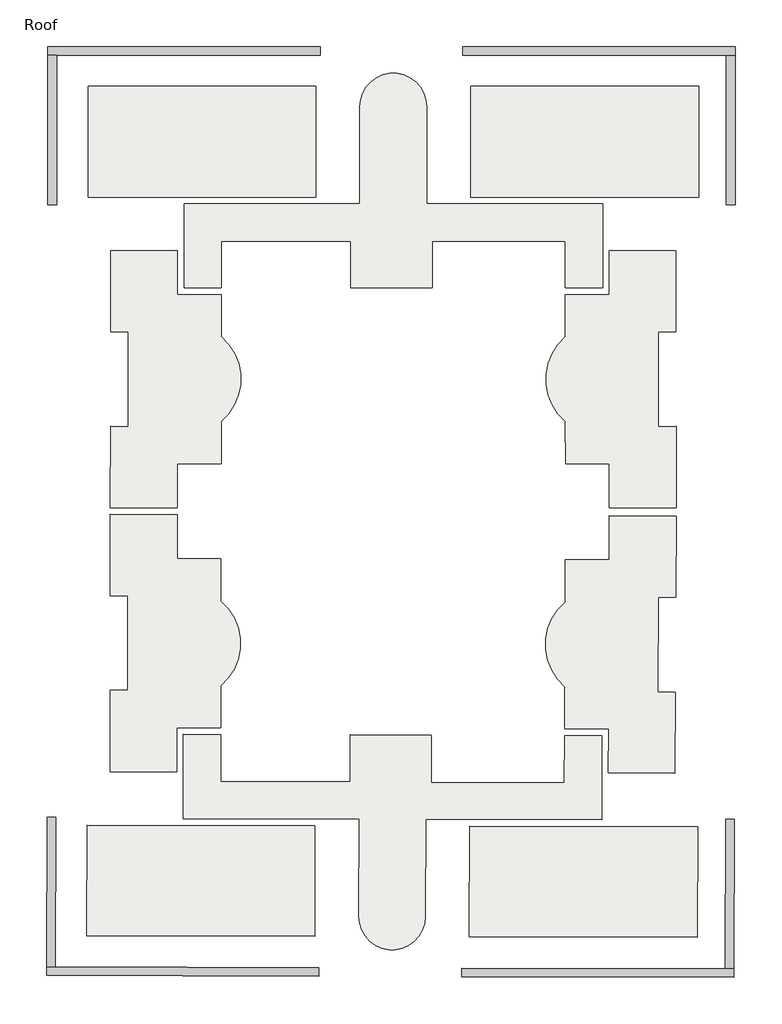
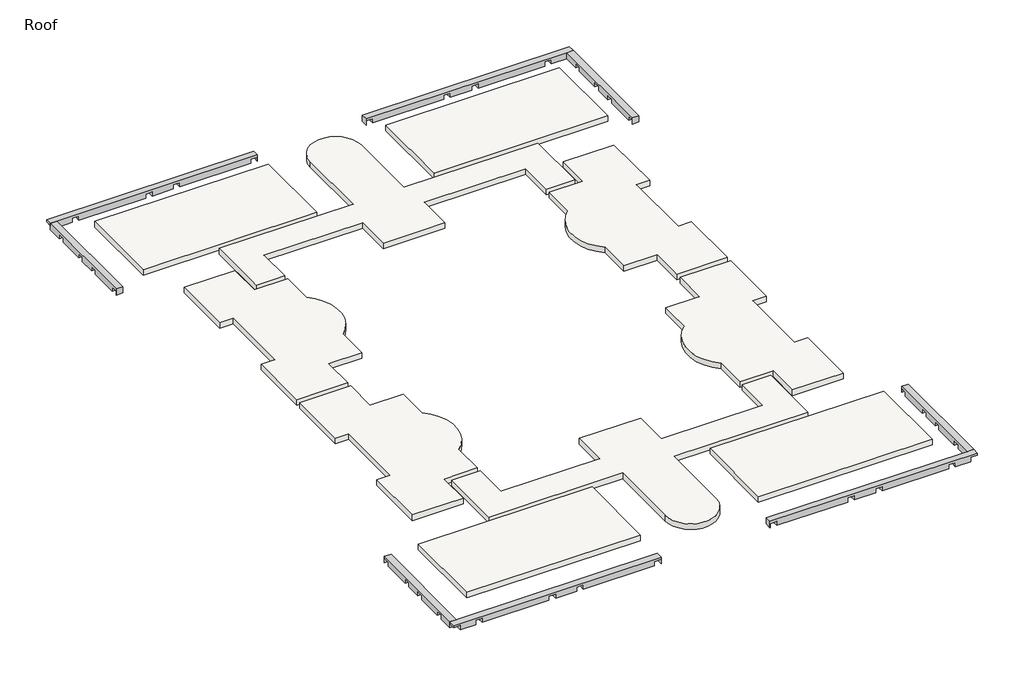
# One storey: 10 roofs, 8 beams.
"""IFC4 building model written with IfcOpenShell, lengths in millimetres."""

from ifc_helpers import new_model, si_unit, point, frame, frame_2d, origin, place, context, project, spatial, polyline, circle_curve, trimmed, segment, composite_curve, outline, extrude, faceted_brep, element, save

model = new_model("IFC4")

# Units and contexts
model_context = context("Model", 3, world=origin())
ifc_project = project(units=[si_unit("LENGTHUNIT", "METRE", prefix="MILLI")], contexts=[model_context])

# Site, building, storey
site = spatial("IfcSite", under=ifc_project)
building = spatial("IfcBuilding", under=site)
storey = spatial("IfcBuildingStorey", under=building, Name="Roof", Elevation=12192.0)

# Beams
placement = place(None, origin())
element("IfcBeam", 1, ObjectType="M_Concrete-Rectangular Beam : 450 x 450", at=placement, inside=storey, context=model_context, shape_type="Brep", body=[
    faceted_brep([(-15338.3416203, 4481.1188386, 12192.0), (-15338.3416203, 4481.1188386, 11742.0), (-15338.3416203, 4031.1188386, 11742.0), (-15338.3416203, 4031.1188386, 12192.0), (-1643.3416203, 4031.1188386, 12192.0), (-1193.3416203, 4031.1188386, 12192.0), (-1193.3416203, 4481.1188386, 12192.0), (-15335.3416203, 4031.1188386, 11742.0), (-15335.3416203, 4031.1188386, 12042.0), (-14885.3416203, 4031.1188386, 12042.0), (-14885.3416203, 4031.1188386, 11742.0), (-10043.3416203, 4031.1188386, 11742.0), (-10043.3416203, 4031.1188386, 12042.0), (-9593.3416203, 4031.1188386, 12042.0), (-9593.3416203, 4031.1188386, 11742.0), (-8143.3416203, 4031.1188386, 11742.0), (-8143.3416203, 4031.1188386, 12042.0), (-7693.3416203, 4031.1188386, 12042.0), (-7693.3416203, 4031.1188386, 11742.0), (-3143.3416203, 4031.1188386, 11742.0), (-3143.3416203, 4031.1188386, 12042.0), (-2693.3416203, 4031.1188386, 12042.0), (-2693.3416203, 4031.1188386, 11742.0), (-1643.3416203, 4031.1188386, 11742.0), (-1643.3416203, 4031.1188386, 12042.0), (-1193.3416203, 4031.1188386, 12042.0), (-2693.3416203, 4481.1188386, 11742.0), (-1643.3416203, 4481.1188386, 11742.0), (-1193.3416203, 4481.1188386, 12042.0), (-1643.3416203, 4481.1188386, 12042.0), (-2693.3416203, 4481.1188386, 12042.0), (-3143.3416203, 4481.1188386, 12042.0), (-3143.3416203, 4481.1188386, 11742.0), (-7693.3416203, 4481.1188386, 11742.0), (-7693.3416203, 4481.1188386, 12042.0), (-8143.3416203, 4481.1188386, 12042.0), (-8143.3416203, 4481.1188386, 11742.0), (-9593.3416203, 4481.1188386, 11742.0), (-9593.3416203, 4481.1188386, 12042.0), (-10043.3416203, 4481.1188386, 12042.0), (-10043.3416203, 4481.1188386, 11742.0), (-14885.3416203, 4481.1188386, 11742.0), (-14885.3416203, 4481.1188386, 12042.0), (-15335.3416203, 4481.1188386, 12042.0), (-15335.3416203, 4481.1188386, 11742.0)], [[[0, 1, 2, 3]], [[0, 3, 4, 5, 6]], [[3, 2, 7, 8, 9, 10, 11, 12, 13, 14, 15, 16, 17, 18, 19, 20, 21, 22, 23, 24, 25, 5, 4]], [[22, 26, 27, 23]], [[1, 0, 6, 28, 29, 27, 26, 30, 31, 32, 33, 34, 35, 36, 37, 38, 39, 40, 41, 42, 43, 44]], [[6, 5, 25, 28]], [[21, 30, 26, 22]], [[31, 20, 19, 32]], [[30, 21, 20, 31]], [[32, 19, 18, 33]], [[17, 34, 33, 18]], [[35, 16, 15, 36]], [[34, 17, 16, 35]], [[36, 15, 14, 37]], [[13, 38, 37, 14]], [[39, 12, 11, 40]], [[38, 13, 12, 39]], [[40, 11, 10, 41]], [[9, 42, 41, 10]], [[42, 9, 8, 43]], [[29, 24, 23, 27]], [[24, 29, 28, 25]], [[43, 8, 7, 44]], [[2, 1, 44, 7]]]),
])
element("IfcBeam", 2, ObjectType="M_Concrete-Rectangular Beam : 450 x 450", at=placement, inside=storey, context=model_context, shape_type="Brep", body=[
    faceted_brep([(-1193.3416203, -3743.8811614, 12192.0), (-1643.3416203, -3743.8811614, 12192.0), (-1643.3416203, -3743.8811614, 11742.0), (-1193.3416203, -3743.8811614, 11742.0), (-1193.3416203, 4031.1188386, 12192.0), (-1643.3416203, 4031.1188386, 12192.0), (-1643.3416203, 4031.1188386, 12042.0), (-1643.3416203, 4031.1188386, 11742.0), (-1643.3416203, 2981.1188386, 11742.0), (-1643.3416203, 2981.1188386, 12042.0), (-1643.3416203, 2531.1188386, 12042.0), (-1643.3416203, 2531.1188386, 11742.0), (-1643.3416203, 681.1188386, 11742.0), (-1643.3416203, 681.1188386, 12042.0), (-1643.3416203, 231.1188386, 12042.0), (-1643.3416203, 231.1188386, 11742.0), (-1643.3416203, -845.3811614, 11742.0), (-1643.3416203, -845.3811614, 12042.0), (-1643.3416203, -1295.3811614, 12042.0), (-1643.3416203, -1295.3811614, 11742.0), (-1643.3416203, -3289.8811614, 11742.0), (-1643.3416203, -3289.8811614, 12042.0), (-1643.3416203, -3739.8811614, 12042.0), (-1643.3416203, -3739.8811614, 11742.0), (-1193.3416203, -3739.8811614, 11742.0), (-1193.3416203, -3739.8811614, 12042.0), (-1193.3416203, -3289.8811614, 12042.0), (-1193.3416203, -3289.8811614, 11742.0), (-1193.3416203, -1295.3811614, 11742.0), (-1193.3416203, -1295.3811614, 12042.0), (-1193.3416203, -845.3811614, 12042.0), (-1193.3416203, -845.3811614, 11742.0), (-1193.3416203, 231.1188386, 11742.0), (-1193.3416203, 231.1188386, 12042.0), (-1193.3416203, 681.1188386, 12042.0), (-1193.3416203, 681.1188386, 11742.0), (-1193.3416203, 2531.1188386, 11742.0), (-1193.3416203, 2531.1188386, 12042.0), (-1193.3416203, 2981.1188386, 12042.0), (-1193.3416203, 2981.1188386, 11742.0), (-1193.3416203, 4031.1188386, 11742.0), (-1193.3416203, 4031.1188386, 12042.0)], [[[0, 1, 2, 3]], [[1, 0, 4, 5]], [[2, 1, 5, 6, 7, 8, 9, 10, 11, 12, 13, 14, 15, 16, 17, 18, 19, 20, 21, 22, 23]], [[3, 2, 23, 24]], [[0, 3, 24, 25, 26, 27, 28, 29, 30, 31, 32, 33, 34, 35, 36, 37, 38, 39, 40, 41, 4]], [[5, 4, 41, 40, 7, 6]], [[10, 37, 36, 11]], [[38, 9, 8, 39]], [[37, 10, 9, 38]], [[7, 40, 39, 8]], [[14, 33, 32, 15]], [[34, 13, 12, 35]], [[33, 14, 13, 34]], [[11, 36, 35, 12]], [[18, 29, 28, 19]], [[30, 17, 16, 31]], [[29, 18, 17, 30]], [[15, 32, 31, 16]], [[26, 21, 20, 27]], [[25, 22, 21, 26]], [[22, 25, 24, 23]], [[19, 28, 27, 20]]]),
])
element("IfcBeam", 3, ObjectType="M_Concrete-Rectangular Beam : 450 x 450", at=placement, inside=storey, context=model_context, shape_type="Brep", body=[
    faceted_brep([(-22763.8416203, 4481.1188386, 11742.0), (-22763.8416203, 4481.1188386, 12192.0), (-22763.8416203, 4031.1188386, 12192.0), (-22763.8416203, 4031.1188386, 11742.0), (-36908.8416203, 4481.1188386, 12192.0), (-36908.8416203, 4031.1188386, 12192.0), (-36458.8416203, 4031.1188386, 12192.0), (-36908.8416203, 4031.1188386, 12042.0), (-36458.8416203, 4031.1188386, 12042.0), (-36458.8416203, 4031.1188386, 11742.0), (-35408.8416203, 4031.1188386, 11742.0), (-35408.8416203, 4031.1188386, 12042.0), (-34958.8416203, 4031.1188386, 12042.0), (-34958.8416203, 4031.1188386, 11742.0), (-30408.8416203, 4031.1188386, 11742.0), (-30408.8416203, 4031.1188386, 12042.0), (-29958.8416203, 4031.1188386, 12042.0), (-29958.8416203, 4031.1188386, 11742.0), (-28508.8416203, 4031.1188386, 11742.0), (-28508.8416203, 4031.1188386, 12042.0), (-28058.8416203, 4031.1188386, 12042.0), (-28058.8416203, 4031.1188386, 11742.0), (-23216.8416203, 4031.1188386, 11742.0), (-23216.8416203, 4031.1188386, 12042.0), (-22766.8416203, 4031.1188386, 12042.0), (-22766.8416203, 4031.1188386, 11742.0), (-35408.8416203, 4481.1188386, 11742.0), (-36458.8416203, 4481.1188386, 11742.0), (-22766.8416203, 4481.1188386, 11742.0), (-22766.8416203, 4481.1188386, 12042.0), (-23216.8416203, 4481.1188386, 12042.0), (-23216.8416203, 4481.1188386, 11742.0), (-28058.8416203, 4481.1188386, 11742.0), (-28058.8416203, 4481.1188386, 12042.0), (-28508.8416203, 4481.1188386, 12042.0), (-28508.8416203, 4481.1188386, 11742.0), (-29958.8416203, 4481.1188386, 11742.0), (-29958.8416203, 4481.1188386, 12042.0), (-30408.8416203, 4481.1188386, 12042.0), (-30408.8416203, 4481.1188386, 11742.0), (-34958.8416203, 4481.1188386, 11742.0), (-34958.8416203, 4481.1188386, 12042.0), (-35408.8416203, 4481.1188386, 12042.0), (-36458.8416203, 4481.1188386, 12042.0), (-36908.8416203, 4481.1188386, 12042.0)], [[[0, 1, 2, 3]], [[2, 1, 4, 5, 6]], [[3, 2, 6, 5, 7, 8, 9, 10, 11, 12, 13, 14, 15, 16, 17, 18, 19, 20, 21, 22, 23, 24, 25]], [[26, 10, 9, 27]], [[1, 0, 28, 29, 30, 31, 32, 33, 34, 35, 36, 37, 38, 39, 40, 41, 42, 26, 27, 43, 44, 4]], [[42, 11, 10, 26]], [[12, 41, 40, 13]], [[11, 42, 41, 12]], [[13, 40, 39, 14]], [[38, 15, 14, 39]], [[16, 37, 36, 17]], [[15, 38, 37, 16]], [[17, 36, 35, 18]], [[34, 19, 18, 35]], [[20, 33, 32, 21]], [[19, 34, 33, 20]], [[21, 32, 31, 22]], [[30, 23, 22, 31]], [[23, 30, 29, 24]], [[8, 43, 27, 9]], [[43, 8, 7, 44]], [[24, 29, 28, 25]], [[0, 3, 25, 28]], [[5, 4, 44, 7]]]),
])
element("IfcBeam", 4, ObjectType="M_Concrete-Rectangular Beam : 450 x 450", at=placement, inside=storey, context=model_context, shape_type="Brep", body=[
    faceted_brep([(-36458.8416203, -3743.8811614, 12192.0), (-36908.8416203, -3743.8811614, 12192.0), (-36908.8416203, -3743.8811614, 11742.0), (-36458.8416203, -3743.8811614, 11742.0), (-36458.8416203, 4031.1188386, 12192.0), (-36908.8416203, 4031.1188386, 12192.0), (-36458.8416203, -3739.8811614, 11742.0), (-36458.8416203, -3739.8811614, 12042.0), (-36458.8416203, -3289.8811614, 12042.0), (-36458.8416203, -3289.8811614, 11742.0), (-36458.8416203, -1295.3811614, 11742.0), (-36458.8416203, -1295.3811614, 12042.0), (-36458.8416203, -845.3811614, 12042.0), (-36458.8416203, -845.3811614, 11742.0), (-36458.8416203, 231.1188386, 11742.0), (-36458.8416203, 231.1188386, 12042.0), (-36458.8416203, 681.1188386, 12042.0), (-36458.8416203, 681.1188386, 11742.0), (-36458.8416203, 2531.1188386, 11742.0), (-36458.8416203, 2531.1188386, 12042.0), (-36458.8416203, 2981.1188386, 12042.0), (-36458.8416203, 2981.1188386, 11742.0), (-36458.8416203, 4031.1188386, 11742.0), (-36458.8416203, 4031.1188386, 12042.0), (-36908.8416203, -3739.8811614, 11742.0), (-36908.8416203, 4031.1188386, 12042.0), (-36908.8416203, 4031.1188386, 11742.0), (-36908.8416203, 2981.1188386, 11742.0), (-36908.8416203, 2981.1188386, 12042.0), (-36908.8416203, 2531.1188386, 12042.0), (-36908.8416203, 2531.1188386, 11742.0), (-36908.8416203, 681.1188386, 11742.0), (-36908.8416203, 681.1188386, 12042.0), (-36908.8416203, 231.1188386, 12042.0), (-36908.8416203, 231.1188386, 11742.0), (-36908.8416203, -845.3811614, 11742.0), (-36908.8416203, -845.3811614, 12042.0), (-36908.8416203, -1295.3811614, 12042.0), (-36908.8416203, -1295.3811614, 11742.0), (-36908.8416203, -3289.8811614, 11742.0), (-36908.8416203, -3289.8811614, 12042.0), (-36908.8416203, -3739.8811614, 12042.0)], [[[0, 1, 2, 3]], [[1, 0, 4, 5]], [[0, 3, 6, 7, 8, 9, 10, 11, 12, 13, 14, 15, 16, 17, 18, 19, 20, 21, 22, 23, 4]], [[3, 2, 24, 6]], [[2, 1, 5, 25, 26, 27, 28, 29, 30, 31, 32, 33, 34, 35, 36, 37, 38, 39, 40, 41, 24]], [[5, 4, 23, 22, 26, 25]], [[29, 19, 18, 30]], [[20, 28, 27, 21]], [[19, 29, 28, 20]], [[26, 22, 21, 27]], [[33, 15, 14, 34]], [[16, 32, 31, 17]], [[15, 33, 32, 16]], [[30, 18, 17, 31]], [[37, 11, 10, 38]], [[12, 36, 35, 13]], [[11, 37, 36, 12]], [[34, 14, 13, 35]], [[8, 40, 39, 9]], [[7, 41, 40, 8]], [[41, 7, 6, 24]], [[38, 10, 9, 39]]]),
])
element("IfcBeam", 5, ObjectType="M_Concrete-Rectangular Beam : 450 x 450", at=placement, inside=storey, context=model_context, shape_type="Brep", body=[
    faceted_brep([(-15408.3142615, -43861.5586759, 11742.0), (-15408.3142615, -43861.5586759, 12192.0), (-15407.0115773, -43411.5605615, 12192.0), (-15407.0115773, -43411.5605615, 11742.0), (-1263.3735305, -43902.5063845, 12192.0), (-1262.0708462, -43452.5082701, 12192.0), (-1712.0689607, -43451.2055858, 12192.0), (-1262.0708462, -43452.5082701, 12042.0), (-1712.0689607, -43451.2055858, 12042.0), (-1712.0689607, -43451.2055858, 11742.0), (-2762.0645611, -43448.1659892, 11742.0), (-2762.0645611, -43448.1659892, 12042.0), (-3212.0626755, -43446.863305, 12042.0), (-3212.0626755, -43446.863305, 11742.0), (-7762.0436106, -43433.6917196, 11742.0), (-7762.0436106, -43433.6917196, 12042.0), (-8212.041725, -43432.3890354, 12042.0), (-8212.041725, -43432.3890354, 11742.0), (-9662.0356494, -43428.1914972, 11742.0), (-9662.0356494, -43428.1914972, 12042.0), (-10112.0337638, -43426.888813, 12042.0), (-10112.0337638, -43426.888813, 11742.0), (-14954.0134754, -43412.8719303, 11742.0), (-14954.0134754, -43412.8719303, 12042.0), (-15404.0115898, -43411.569246, 12042.0), (-15404.0115898, -43411.569246, 11742.0), (-2763.3672453, -43898.1641037, 11742.0), (-1713.3716449, -43901.2037003, 11742.0), (-15405.3142741, -43861.5673605, 11742.0), (-15405.3142741, -43861.5673605, 12042.0), (-14955.3161596, -43862.8700448, 12042.0), (-14955.3161597, -43862.8700448, 11742.0), (-10113.3364481, -43876.8869274, 11742.0), (-10113.3364481, -43876.8869274, 12042.0), (-9663.3383336, -43878.1896117, 12042.0), (-9663.3383337, -43878.1896117, 11742.0), (-8213.3444093, -43882.3871498, 11742.0), (-8213.3444093, -43882.3871498, 12042.0), (-7763.3462948, -43883.6898341, 12042.0), (-7763.3462948, -43883.6898341, 11742.0), (-3213.3653598, -43896.8614194, 11742.0), (-3213.3653598, -43896.8614194, 12042.0), (-2763.3672453, -43898.1641037, 12042.0), (-1713.3716449, -43901.2037003, 12042.0), (-1263.3735305, -43902.5063845, 12042.0)], [[[0, 1, 2, 3]], [[2, 1, 4, 5, 6]], [[3, 2, 6, 5, 7, 8, 9, 10, 11, 12, 13, 14, 15, 16, 17, 18, 19, 20, 21, 22, 23, 24, 25]], [[26, 10, 9, 27]], [[1, 0, 28, 29, 30, 31, 32, 33, 34, 35, 36, 37, 38, 39, 40, 41, 42, 26, 27, 43, 44, 4]], [[42, 11, 10, 26]], [[12, 41, 40, 13]], [[11, 42, 41, 12]], [[13, 40, 39, 14]], [[38, 15, 14, 39]], [[16, 37, 36, 17]], [[15, 38, 37, 16]], [[17, 36, 35, 18]], [[34, 19, 18, 35]], [[20, 33, 32, 21]], [[19, 34, 33, 20]], [[21, 32, 31, 22]], [[30, 23, 22, 31]], [[23, 30, 29, 24]], [[8, 43, 27, 9]], [[43, 8, 7, 44]], [[24, 29, 28, 25]], [[0, 3, 25, 28]], [[5, 4, 44, 7]]]),
])
element("IfcBeam", 6, ObjectType="M_Concrete-Rectangular Beam : 450 x 450", at=placement, inside=storey, context=model_context, shape_type="Brep", body=[
    faceted_brep([(-1689.5614715, -35676.2381638, 12192.0), (-1239.563357, -35677.5408481, 12192.0), (-1239.563357, -35677.5408481, 11742.0), (-1689.5614715, -35676.2381638, 11742.0), (-1712.0689607, -43451.2055858, 12192.0), (-1262.0708462, -43452.5082701, 12192.0), (-1689.5730509, -35680.2381471, 11742.0), (-1689.5730509, -35680.2381471, 12042.0), (-1690.8757352, -36130.2362615, 12042.0), (-1690.8757352, -36130.2362615, 11742.0), (-1696.6495213, -38124.7279044, 11742.0), (-1696.6495213, -38124.7279044, 12042.0), (-1697.9522056, -38574.7260188, 12042.0), (-1697.9522056, -38574.7260188, 11742.0), (-1701.0685158, -39651.2215082, 11742.0), (-1701.0685158, -39651.2215082, 12042.0), (-1702.3712001, -40101.2196227, 12042.0), (-1702.3712001, -40101.2196227, 11742.0), (-1707.7266798, -41951.211871, 11742.0), (-1707.7266798, -41951.211871, 12042.0), (-1709.0293641, -42401.2099854, 12042.0), (-1709.0293641, -42401.2099854, 11742.0), (-1712.0689607, -43451.2055858, 11742.0), (-1712.0689607, -43451.2055858, 12042.0), (-1239.5749364, -35681.5408313, 11742.0), (-1262.0708462, -43452.5082701, 12042.0), (-1262.0708462, -43452.5082701, 11742.0), (-1259.0312496, -42402.5126697, 11742.0), (-1259.0312496, -42402.5126697, 12042.0), (-1257.7285653, -41952.5145552, 12042.0), (-1257.7285653, -41952.5145552, 11742.0), (-1252.3730856, -40102.5223069, 11742.0), (-1252.3730856, -40102.5223069, 12042.0), (-1251.0704013, -39652.5241925, 12042.0), (-1251.0704013, -39652.5241925, 11742.0), (-1247.9540911, -38576.0287031, 11742.0), (-1247.9540911, -38576.0287031, 12042.0), (-1246.6514068, -38126.0305886, 12042.0), (-1246.6514068, -38126.0305886, 11742.0), (-1240.8776207, -36131.5389458, 11742.0), (-1240.8776207, -36131.5389458, 12042.0), (-1239.5749364, -35681.5408313, 12042.0)], [[[0, 1, 2, 3]], [[1, 0, 4, 5]], [[0, 3, 6, 7, 8, 9, 10, 11, 12, 13, 14, 15, 16, 17, 18, 19, 20, 21, 22, 23, 4]], [[3, 2, 24, 6]], [[2, 1, 5, 25, 26, 27, 28, 29, 30, 31, 32, 33, 34, 35, 36, 37, 38, 39, 40, 41, 24]], [[5, 4, 23, 22, 26, 25]], [[29, 19, 18, 30]], [[20, 28, 27, 21]], [[19, 29, 28, 20]], [[26, 22, 21, 27]], [[33, 15, 14, 34]], [[16, 32, 31, 17]], [[15, 33, 32, 16]], [[30, 18, 17, 31]], [[37, 11, 10, 38]], [[12, 36, 35, 13]], [[11, 37, 36, 12]], [[34, 14, 13, 35]], [[8, 40, 39, 9]], [[7, 41, 40, 8]], [[41, 7, 6, 24]], [[38, 10, 9, 39]]]),
])
element("IfcBeam", 7, ObjectType="M_Concrete-Rectangular Beam : 450 x 450", at=placement, inside=storey, context=model_context, shape_type="Brep", body=[
    faceted_brep([(-22833.783148, -43840.0629382, 12192.0), (-22833.783148, -43840.0629382, 11742.0), (-22832.4804637, -43390.0648237, 11742.0), (-22832.4804637, -43390.0648237, 12192.0), (-36527.4230803, -43350.4197994, 12192.0), (-36977.4211948, -43349.1171151, 12192.0), (-36978.723879, -43799.1152296, 12192.0), (-22835.4804511, -43390.0561392, 11742.0), (-22835.4804511, -43390.0561392, 12042.0), (-23285.4785656, -43388.7534549, 12042.0), (-23285.4785656, -43388.7534549, 11742.0), (-28127.4582771, -43374.7365723, 11742.0), (-28127.4582771, -43374.7365723, 12042.0), (-28577.4563916, -43373.433888, 12042.0), (-28577.4563916, -43373.433888, 11742.0), (-30027.4503159, -43369.2363498, 11742.0), (-30027.4503159, -43369.2363498, 12042.0), (-30477.4484304, -43367.9336656, 12042.0), (-30477.4484304, -43367.9336656, 11742.0), (-35027.4293654, -43354.7620803, 11742.0), (-35027.4293655, -43354.7620803, 12042.0), (-35477.4274799, -43353.459396, 12042.0), (-35477.4274799, -43353.459396, 11742.0), (-36527.4230803, -43350.4197994, 11742.0), (-36527.4230803, -43350.4197994, 12042.0), (-36977.4211948, -43349.1171151, 12042.0), (-35478.7301642, -43803.4575104, 11742.0), (-36528.7257646, -43800.4179138, 11742.0), (-36978.723879, -43799.1152296, 12042.0), (-36528.7257646, -43800.4179138, 12042.0), (-35478.7301642, -43803.4575104, 12042.0), (-35028.7320497, -43804.7601947, 12042.0), (-35028.7320497, -43804.7601947, 11742.0), (-30478.7511147, -43817.93178, 11742.0), (-30478.7511147, -43817.93178, 12042.0), (-30028.7530002, -43819.2344643, 12042.0), (-30028.7530002, -43819.2344643, 11742.0), (-28578.7590758, -43823.4320025, 11742.0), (-28578.7590758, -43823.4320025, 12042.0), (-28128.7609614, -43824.7346867, 12042.0), (-28128.7609614, -43824.7346867, 11742.0), (-23286.7812498, -43838.7515694, 11742.0), (-23286.7812498, -43838.7515694, 12042.0), (-22836.7831354, -43840.0542536, 12042.0), (-22836.7831354, -43840.0542536, 11742.0)], [[[0, 1, 2, 3]], [[0, 3, 4, 5, 6]], [[3, 2, 7, 8, 9, 10, 11, 12, 13, 14, 15, 16, 17, 18, 19, 20, 21, 22, 23, 24, 25, 5, 4]], [[22, 26, 27, 23]], [[1, 0, 6, 28, 29, 27, 26, 30, 31, 32, 33, 34, 35, 36, 37, 38, 39, 40, 41, 42, 43, 44]], [[21, 30, 26, 22]], [[31, 20, 19, 32]], [[30, 21, 20, 31]], [[32, 19, 18, 33]], [[17, 34, 33, 18]], [[35, 16, 15, 36]], [[34, 17, 16, 35]], [[36, 15, 14, 37]], [[13, 38, 37, 14]], [[39, 12, 11, 40]], [[38, 13, 12, 39]], [[40, 11, 10, 41]], [[9, 42, 41, 10]], [[42, 9, 8, 43]], [[29, 24, 23, 27]], [[24, 29, 28, 25]], [[43, 8, 7, 44]], [[2, 1, 44, 7]], [[6, 5, 25, 28]]]),
])
element("IfcBeam", 8, ObjectType="M_Concrete-Rectangular Beam : 450 x 450", at=placement, inside=storey, context=model_context, shape_type="Brep", body=[
    faceted_brep([(-36954.9137056, -35574.1496931, 12192.0), (-36504.9155911, -35575.4523774, 12192.0), (-36504.9155911, -35575.4523774, 11742.0), (-36954.9137056, -35574.1496931, 11742.0), (-36977.4211948, -43349.1171151, 12192.0), (-36527.4230803, -43350.4197994, 12192.0), (-36527.4230803, -43350.4197994, 12042.0), (-36527.4230803, -43350.4197994, 11742.0), (-36524.3834837, -42300.424199, 11742.0), (-36524.3834837, -42300.424199, 12042.0), (-36523.0807994, -41850.4260845, 12042.0), (-36523.0807994, -41850.4260845, 11742.0), (-36517.7253197, -40000.4338362, 11742.0), (-36517.7253197, -40000.4338362, 12042.0), (-36516.4226354, -39550.4357218, 12042.0), (-36516.4226354, -39550.4357218, 11742.0), (-36513.3063252, -38473.9402324, 11742.0), (-36513.3063252, -38473.9402324, 12042.0), (-36512.0036409, -38023.9421179, 12042.0), (-36512.0036409, -38023.9421179, 11742.0), (-36506.2298548, -36029.4504751, 11742.0), (-36506.2298548, -36029.4504751, 12042.0), (-36504.9271705, -35579.4523606, 12042.0), (-36504.9271705, -35579.4523606, 11742.0), (-36954.925285, -35578.1496764, 11742.0), (-36954.925285, -35578.1496764, 12042.0), (-36956.2279692, -36028.1477908, 12042.0), (-36956.2279692, -36028.1477908, 11742.0), (-36962.0017554, -38022.6394337, 11742.0), (-36962.0017554, -38022.6394337, 12042.0), (-36963.3044396, -38472.6375481, 12042.0), (-36963.3044396, -38472.6375481, 11742.0), (-36966.4207499, -39549.1330375, 11742.0), (-36966.4207499, -39549.1330375, 12042.0), (-36967.7234341, -39999.1311519, 12042.0), (-36967.7234341, -39999.1311519, 11742.0), (-36973.0789139, -41849.1234003, 11742.0), (-36973.0789139, -41849.1234003, 12042.0), (-36974.3815981, -42299.1215147, 12042.0), (-36974.3815981, -42299.1215147, 11742.0), (-36977.4211948, -43349.1171151, 11742.0), (-36977.4211948, -43349.1171151, 12042.0)], [[[0, 1, 2, 3]], [[1, 0, 4, 5]], [[2, 1, 5, 6, 7, 8, 9, 10, 11, 12, 13, 14, 15, 16, 17, 18, 19, 20, 21, 22, 23]], [[3, 2, 23, 24]], [[0, 3, 24, 25, 26, 27, 28, 29, 30, 31, 32, 33, 34, 35, 36, 37, 38, 39, 40, 41, 4]], [[5, 4, 41, 40, 7, 6]], [[10, 37, 36, 11]], [[38, 9, 8, 39]], [[37, 10, 9, 38]], [[7, 40, 39, 8]], [[14, 33, 32, 15]], [[34, 13, 12, 35]], [[33, 14, 13, 34]], [[11, 36, 35, 12]], [[18, 29, 28, 19]], [[30, 17, 16, 31]], [[29, 18, 17, 30]], [[15, 32, 31, 16]], [[26, 21, 20, 27]], [[25, 22, 21, 26]], [[22, 25, 24, 23]], [[19, 28, 27, 20]]]),
])

# Roofs
element("IfcRoof", 9, ObjectType="Generic - 400mm", at=placement, inside=storey, context=model_context, shape_type="SweptSolid", body=[
    extrude(outline(polyline([(-14935.3416203, 2406.1188386), (-3093.3416203, 2406.1188386), (-3093.3416203, -3339.8811614), (-14935.3416203, -3339.8811614), (-14935.3416203, 2406.1188386)])), frame((0.0, 0.0, 12192.0), z_axis=(0.0, 0.0, 1.0), x_axis=(1.0, 0.0, 0.0)), (0.0, 0.0, 1.0), 400.0),
])
element("IfcRoof", 10, ObjectType="Generic - 400mm", at=placement, inside=storey, context=model_context, shape_type="SweptSolid", body=[
    extrude(outline(composite_curve([segment(polyline([(-20687.0916203, -3689.8811614), (-20687.0916203, 1362.1188386)]), True, "CONTINUOUS"), segment(trimmed(circle_curve(frame_2d((-18957.0916203, 1362.1188386)), 1730.0), [point((-20687.0916203, 1362.1188386))], [point((-17227.0916203, 1362.1188386))], False, "CARTESIAN"), True, "CONTINUOUS"), segment(polyline([(-17227.0916203, 1362.1188386), (-17227.0916203, -3689.8811614), (-8083.0916203, -3689.8811614), (-8083.0916203, -8064.2811614), (-10019.0916203, -8064.2811614), (-10019.0916203, -5625.8811614), (-16940.0916203, -5625.8811614), (-16940.0916203, -8064.2811614), (-21162.0916203, -8064.2811614), (-21162.0916203, -5625.8811614), (-27895.0916203, -5625.8811614), (-27895.0916203, -8064.2811614), (-29831.0916203, -8064.2811614), (-29831.0916203, -3689.8811614), (-20687.0916203, -3689.8811614)]), True, "CONTINUOUS")], self_intersect=False)), frame((0.0, 0.0, 12192.0), z_axis=(0.0, 0.0, 1.0), x_axis=(1.0, 0.0, 0.0)), (0.0, 0.0, 1.0), 400.0),
])
element("IfcRoof", 11, ObjectType="Generic - 400mm", at=placement, inside=storey, context=model_context, shape_type="SweptSolid", body=[
    extrude(outline(composite_curve([segment(polyline([(-4262.662547, -15266.7589083), (-4256.5515039, -19488.7544857), (-7723.7978719, -19493.7730821), (-7727.1066934, -17207.7754767), (-10005.8543064, -17211.0738043), (-10009.0494686, -15003.6010958)]), True, "CONTINUOUS"), segment(trimmed(circle_curve(frame_2d((-8159.0279702, -12805.5225132)), 2873.0), [point((-10009.0494686, -15003.6010958))], [point((-10015.4048332, -10612.8086826))], False, "CARTESIAN"), True, "CONTINUOUS"), segment(polyline([(-10015.4048332, -10612.8086826), (-10018.5829924, -8417.0830163), (-7732.585387, -8413.7741948), (-7735.8942085, -6127.7765894), (-4275.8978329, -6122.7684869), (-4269.7867899, -10344.7640643), (-5184.185832, -10346.0875929), (-5177.0615891, -15268.0824369), (-4262.662547, -15266.7589083)]), True, "CONTINUOUS")], self_intersect=False)), frame((0.0, 0.0, 12192.0), z_axis=(0.0, 0.0, 1.0), x_axis=(1.0, 0.0, 0.0)), (0.0, 0.0, 1.0), 400.0),
])
element("IfcRoof", 12, ObjectType="Generic - 400mm", at=placement, inside=storey, context=model_context, shape_type="SweptSolid", body=[
    extrude(outline(polyline([(-34820.8416203, 2406.1188386), (-22978.8416203, 2406.1188386), (-22978.8416203, -3339.8811614), (-34820.8416203, -3339.8811614), (-34820.8416203, 2406.1188386)])), frame((0.0, 0.0, 12192.0), z_axis=(0.0, 0.0, 1.0), x_axis=(1.0, 0.0, 0.0)), (0.0, 0.0, 1.0), 400.0),
])
element("IfcRoof", 13, ObjectType="Generic - 400mm", at=placement, inside=storey, context=model_context, shape_type="SweptSolid", body=[
    extrude(outline(composite_curve([segment(polyline([(-33657.6317367, -19488.7544857), (-33651.5206937, -15266.7589083), (-32737.1216515, -15268.0824369), (-32729.9974086, -10346.0875929), (-33644.3964507, -10344.7640643), (-33638.2854077, -6122.7684869), (-30178.2890322, -6127.7765894), (-30181.5978537, -8413.7741948), (-27895.6002483, -8417.0830163), (-27898.7784075, -10612.8086826)]), True, "CONTINUOUS"), segment(trimmed(circle_curve(frame_2d((-29755.1552705, -12805.5225132)), 2873.0), [point((-27898.7784075, -10612.8086826))], [point((-27905.1337721, -15003.6010958))], False, "CARTESIAN"), True, "CONTINUOUS"), segment(polyline([(-27905.1337721, -15003.6010958), (-27908.3289343, -17211.0738043), (-30187.0765472, -17207.7754767), (-30190.3853687, -19493.7730821), (-33657.6317367, -19488.7544857)]), True, "CONTINUOUS")], self_intersect=False)), frame((0.0, 0.0, 12192.0), z_axis=(0.0, 0.0, 1.0), x_axis=(1.0, 0.0, 0.0)), (0.0, 0.0, 1.0), 400.0),
])
element("IfcRoof", 14, ObjectType="Generic - 400mm", at=placement, inside=storey, context=model_context, shape_type="SweptSolid", body=[
    extrude(outline(polyline([(-3157.3587474, -41822.0148566), (-14999.3091283, -41787.7339965), (-14982.6752977, -36041.7580728), (-3140.7249168, -36076.0389329), (-3157.3587474, -41822.0148566)])), frame((0.0, 0.0, 12192.0), z_axis=(0.0, 0.0, 1.0), x_axis=(1.0, 0.0, 0.0)), (0.0, 0.0, 1.0), 400.0),
])
element("IfcRoof", 15, ObjectType="Generic - 400mm", at=placement, inside=storey, context=model_context, shape_type="SweptSolid", body=[
    extrude(outline(composite_curve([segment(polyline([(-4257.1812973, -19923.8659512), (-4275.5143752, -24145.8261474), (-5189.9057545, -24141.8555727), (-5211.2784236, -29063.8091695), (-4296.8870443, -29067.7797442), (-4315.2201221, -33289.7399404), (-7775.1875022, -33274.7156749), (-7765.2610655, -30988.7372266), (-10051.2395137, -30978.8107899), (-10041.7050628, -28783.1035241)]), True, "CONTINUOUS"), segment(trimmed(circle_curve(frame_2d((-8178.988392, -26595.7728211)), 2873.0), [point((-10041.7050628, -28783.1035241))], [point((-10022.6390223, -24392.3479066))], False, "CARTESIAN"), True, "CONTINUOUS"), segment(polyline([(-10022.6390223, -24392.3479066), (-10013.0535624, -22184.8936972), (-7734.3250458, -22194.7886524), (-7724.3986091, -19908.8102042), (-4257.1812973, -19923.8659512)]), True, "CONTINUOUS")], self_intersect=False)), frame((0.0, 0.0, 12192.0), z_axis=(0.0, 0.0, 1.0), x_axis=(1.0, 0.0, 0.0)), (0.0, 0.0, 1.0), 400.0),
])
element("IfcRoof", 16, ObjectType="Generic - 400mm", at=placement, inside=storey, context=model_context, shape_type="SweptSolid", body=[
    extrude(outline(polyline([(-23042.7754252, -41764.4492391), (-34884.7258061, -41730.168379), (-34868.0919755, -35984.1924553), (-23026.1415946, -36018.4733154), (-23042.7754252, -41764.4492391)])), frame((0.0, 0.0, 12192.0), z_axis=(0.0, 0.0, 1.0), x_axis=(1.0, 0.0, 0.0)), (0.0, 0.0, 1.0), 400.0),
])
element("IfcRoof", 17, ObjectType="Generic - 400mm", at=placement, inside=storey, context=model_context, shape_type="SweptSolid", body=[
    extrude(outline(composite_curve([segment(polyline([(-33664.2493797, -24060.7496964), (-33658.1383367, -19838.7541191), (-30190.8919687, -19843.7727154), (-30194.2007902, -22129.7703208), (-27915.4531772, -22133.0686484), (-27918.6483394, -24340.5413569)]), True, "CONTINUOUS"), segment(trimmed(circle_curve(frame_2d((-29775.0252024, -26533.2551875)), 2873.0), [point((-27918.6483394, -24340.5413569))], [point((-27925.0037041, -28731.3337701))], False, "CARTESIAN"), True, "CONTINUOUS"), segment(polyline([(-27925.0037041, -28731.3337701), (-27928.1818632, -30927.0594365), (-30214.1794686, -30923.750615), (-30217.4882901, -33209.7482204), (-33677.4846656, -33204.7401178), (-33671.3736226, -28982.7445405), (-32756.9745805, -28984.0680691), (-32749.8503375, -24062.073225), (-33664.2493797, -24060.7496964)]), True, "CONTINUOUS")], self_intersect=False)), frame((0.0, 0.0, 12192.0), z_axis=(0.0, 0.0, 1.0), x_axis=(1.0, 0.0, 0.0)), (0.0, 0.0, 1.0), 400.0),
])
element("IfcRoof", 18, ObjectType="Generic - 400mm", at=placement, inside=storey, context=model_context, shape_type="SweptSolid", body=[
    extrude(outline(composite_curve([segment(polyline([(-20748.0128004, -40727.087895), (-20733.3879984, -35675.1090634), (-29877.3496842, -35648.6385192), (-29864.6864352, -31274.2568483), (-27928.6945472, -31279.8612855), (-27935.753359, -33718.2510684), (-21202.7815709, -33737.7421198), (-21195.7227592, -31299.3523369), (-16973.7404497, -31311.5744101), (-16980.7992615, -33749.964193), (-10059.8282612, -33769.9994769), (-10052.7694494, -31331.6096941), (-8116.7775614, -31337.2141313), (-8129.4408104, -35711.5958021), (-17273.4024962, -35685.1252579), (-17288.0272981, -40737.1040895)]), True, "CONTINUOUS"), segment(trimmed(circle_curve(frame_2d((-19018.0200493, -40732.0959922)), 1730.0), [point((-17288.0272981, -40737.1040895))], [point((-20748.0128004, -40727.087895))], False, "CARTESIAN"), True, "CONTINUOUS")], self_intersect=False)), frame((0.0, 0.0, 12192.0), z_axis=(0.0, 0.0, 1.0), x_axis=(1.0, 0.0, 0.0)), (0.0, 0.0, 1.0), 400.0),
])

save(model, "model.ifc")
